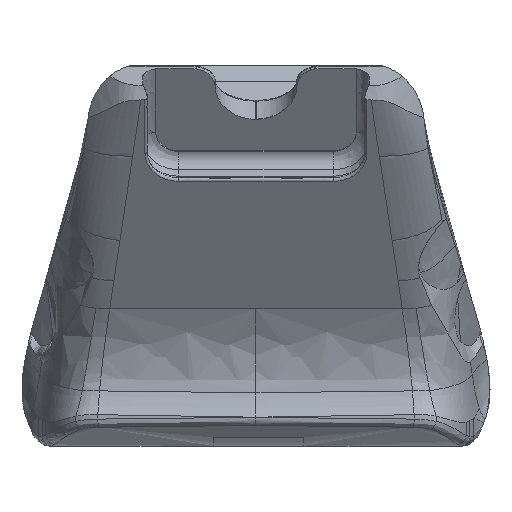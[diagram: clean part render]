
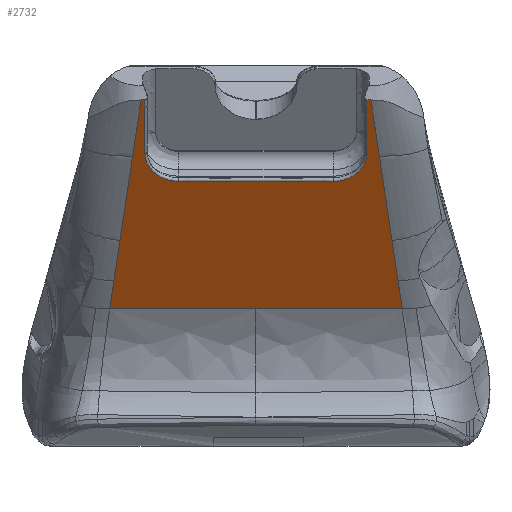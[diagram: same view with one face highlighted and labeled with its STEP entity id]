
A CAD part, top view. The second image highlights one B-rep face of the part: STEP entity #2732.
In plain terms, the highlighted planar face has unit normal (0, -0.574, 0.819).
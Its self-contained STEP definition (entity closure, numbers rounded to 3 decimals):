
#51=PLANE('',#2811);
#255=FACE_OUTER_BOUND('',#408,.T.);
#408=EDGE_LOOP('',(#2385,#2386,#2387,#2388,#2389,#2390,#2391,#2392,#2393,
#2394,#2395,#2396,#2397,#2398,#2399,#2400,#2401));
#454=LINE('',#8465,#538);
#464=LINE('',#20037,#548);
#467=LINE('',#20557,#551);
#468=LINE('',#21230,#552);
#473=LINE('',#21910,#557);
#475=LINE('',#22662,#559);
#476=LINE('',#23746,#560);
#477=LINE('',#24722,#561);
#478=LINE('',#25245,#562);
#480=LINE('',#25512,#564);
#538=VECTOR('',#2900,10.891);
#548=VECTOR('',#2928,10.);
#551=VECTOR('',#2945,7.582);
#552=VECTOR('',#2946,32.237);
#557=VECTOR('',#2951,10.891);
#559=VECTOR('',#2957,32.237);
#560=VECTOR('',#2968,10.);
#561=VECTOR('',#2969,10.);
#562=VECTOR('',#2970,10.);
#564=VECTOR('',#2974,7.582);
#837=B_SPLINE_CURVE_WITH_KNOTS('',3,(#20234,#20235,#20236,#20237),
 .UNSPECIFIED.,.F.,.F.,(4,4),(-1.799,-0.357),
 .UNSPECIFIED.);
#861=B_SPLINE_CURVE_WITH_KNOTS('',3,(#22722,#22723,#22724,#22725),
 .UNSPECIFIED.,.F.,.F.,(4,4),(-3.4,0.),.UNSPECIFIED.);
#866=B_SPLINE_CURVE_WITH_KNOTS('',3,(#25290,#25291,#25292,#25293,#25294,
#25295),.UNSPECIFIED.,.F.,.F.,(4,1,1,4),(-1.173,-0.838,
-0.503,0.),.UNSPECIFIED.);
#869=B_SPLINE_CURVE_WITH_KNOTS('',3,(#25664,#25665,#25666,#25667,#25668,
#25669),.UNSPECIFIED.,.F.,.F.,(4,2,4),(-0.62,-0.566,
-0.322),.UNSPECIFIED.);
#871=B_SPLINE_CURVE_WITH_KNOTS('',3,(#25723,#25724,#25725,#25726,#25727,
#25728),.UNSPECIFIED.,.F.,.F.,(4,1,1,4),(-1.173,-0.838,
-0.503,0.),.UNSPECIFIED.);
#887=B_SPLINE_CURVE_WITH_KNOTS('',3,(#26188,#26189,#26190,#26191,#26192,
#26193),.UNSPECIFIED.,.F.,.F.,(4,2,4),(1.153,1.162,
1.216),.UNSPECIFIED.);
#889=B_SPLINE_CURVE_WITH_KNOTS('',3,(#26217,#26218,#26219,#26220),
 .UNSPECIFIED.,.F.,.F.,(4,4),(-1.442,0.),
 .UNSPECIFIED.);
#1042=VERTEX_POINT('',#8447);
#1043=VERTEX_POINT('',#8464);
#1095=VERTEX_POINT('',#18899);
#1101=VERTEX_POINT('',#19998);
#1102=VERTEX_POINT('',#20036);
#1111=VERTEX_POINT('',#20206);
#1114=VERTEX_POINT('',#20232);
#1118=VERTEX_POINT('',#20540);
#1119=VERTEX_POINT('',#21158);
#1120=VERTEX_POINT('',#21229);
#1138=VERTEX_POINT('',#22719);
#1139=VERTEX_POINT('',#22721);
#1141=VERTEX_POINT('',#23707);
#1142=VERTEX_POINT('',#23745);
#1143=VERTEX_POINT('',#24711);
#1146=VERTEX_POINT('',#25721);
#1174=VERTEX_POINT('',#26187);
#1378=EDGE_CURVE('',#1043,#1042,#454,.T.);
#1478=EDGE_CURVE('',#1101,#1102,#464,.T.);
#1491=EDGE_CURVE('',#1114,#1111,#837,.T.);
#1499=EDGE_CURVE('',#1118,#1095,#467,.T.);
#1501=EDGE_CURVE('',#1119,#1120,#468,.T.);
#1518=EDGE_CURVE('',#1102,#1118,#473,.T.);
#1527=EDGE_CURVE('',#1119,#1095,#475,.T.);
#1532=EDGE_CURVE('',#1138,#1139,#861,.T.);
#1537=EDGE_CURVE('',#1142,#1141,#476,.T.);
#1540=EDGE_CURVE('',#1143,#1101,#477,.T.);
#1541=EDGE_CURVE('',#1141,#1043,#478,.T.);
#1543=EDGE_CURVE('',#1139,#1114,#866,.T.);
#1544=EDGE_CURVE('',#1042,#1120,#480,.T.);
#1547=EDGE_CURVE('',#1143,#1111,#869,.T.);
#1550=EDGE_CURVE('',#1146,#1138,#871,.T.);
#1592=EDGE_CURVE('',#1142,#1174,#887,.T.);
#1596=EDGE_CURVE('',#1174,#1146,#889,.T.);
#2385=ORIENTED_EDGE('',*,*,#1592,.F.);
#2386=ORIENTED_EDGE('',*,*,#1537,.T.);
#2387=ORIENTED_EDGE('',*,*,#1541,.T.);
#2388=ORIENTED_EDGE('',*,*,#1378,.T.);
#2389=ORIENTED_EDGE('',*,*,#1544,.T.);
#2390=ORIENTED_EDGE('',*,*,#1501,.F.);
#2391=ORIENTED_EDGE('',*,*,#1527,.T.);
#2392=ORIENTED_EDGE('',*,*,#1499,.F.);
#2393=ORIENTED_EDGE('',*,*,#1518,.F.);
#2394=ORIENTED_EDGE('',*,*,#1478,.F.);
#2395=ORIENTED_EDGE('',*,*,#1540,.F.);
#2396=ORIENTED_EDGE('',*,*,#1547,.T.);
#2397=ORIENTED_EDGE('',*,*,#1491,.F.);
#2398=ORIENTED_EDGE('',*,*,#1543,.F.);
#2399=ORIENTED_EDGE('',*,*,#1532,.F.);
#2400=ORIENTED_EDGE('',*,*,#1550,.F.);
#2401=ORIENTED_EDGE('',*,*,#1596,.F.);
#2732=ADVANCED_FACE('',(#255),#51,.T.);
#2811=AXIS2_PLACEMENT_3D('',#26216,#3026,#3027);
#2900=DIRECTION('',(-0.122,-0.813,-0.569));
#2928=DIRECTION('',(0.122,-0.813,-0.569));
#2945=DIRECTION('',(0.122,-0.813,-0.569));
#2946=DIRECTION('',(-1.,0.,0.));
#2951=DIRECTION('',(0.122,-0.813,-0.569));
#2957=DIRECTION('',(1.,0.,0.));
#2968=DIRECTION('',(-0.122,-0.813,-0.569));
#2969=DIRECTION('',(0.122,-0.813,-0.569));
#2970=DIRECTION('',(-0.122,-0.813,-0.569));
#2974=DIRECTION('',(-0.122,-0.813,-0.569));
#3026=DIRECTION('center_axis',(0.,-0.574,0.819));
#3027=DIRECTION('ref_axis',(0.,0.819,0.574));
#8447=CARTESIAN_POINT('',(-31.313,-27.694,33.24));
#8464=CARTESIAN_POINT('',(-29.986,-18.84,39.441));
#8465=CARTESIAN_POINT('',(-29.986,-18.84,39.441));
#18899=CARTESIAN_POINT('',(32.237,-33.859,28.924));
#19998=CARTESIAN_POINT('',(27.203,-0.273,52.441));
#20036=CARTESIAN_POINT('',(29.986,-18.84,39.441));
#20037=CARTESIAN_POINT('',(27.203,-0.273,52.441));
#20206=CARTESIAN_POINT('',(24.467,12.154,61.142));
#20232=CARTESIAN_POINT('',(24.467,0.341,52.871));
#20234=CARTESIAN_POINT('Ctrl Pts',(24.467,0.341,52.871));
#20235=CARTESIAN_POINT('Ctrl Pts',(24.467,4.279,55.628));
#20236=CARTESIAN_POINT('Ctrl Pts',(24.467,8.216,58.385));
#20237=CARTESIAN_POINT('Ctrl Pts',(24.467,12.154,61.142));
#20540=CARTESIAN_POINT('',(31.313,-27.694,33.24));
#20557=CARTESIAN_POINT('',(31.313,-27.694,33.24));
#21158=CARTESIAN_POINT('',(0.,-33.859,28.924));
#21229=CARTESIAN_POINT('',(-32.237,-33.859,28.924));
#21230=CARTESIAN_POINT('',(0.,-33.859,28.924));
#21910=CARTESIAN_POINT('',(29.986,-18.84,39.441));
#22662=CARTESIAN_POINT('',(0.,-33.859,28.924));
#22719=CARTESIAN_POINT('',(-17.,-5.776,48.588));
#22721=CARTESIAN_POINT('',(17.,-5.776,48.588));
#22722=CARTESIAN_POINT('Ctrl Pts',(-17.,-5.776,48.588));
#22723=CARTESIAN_POINT('Ctrl Pts',(-5.667,-5.776,
48.588));
#22724=CARTESIAN_POINT('Ctrl Pts',(5.667,-5.776,48.588));
#22725=CARTESIAN_POINT('Ctrl Pts',(17.,-5.776,48.588));
#23707=CARTESIAN_POINT('',(-27.203,-0.273,52.441));
#23745=CARTESIAN_POINT('',(-25.339,12.16,61.147));
#23746=CARTESIAN_POINT('',(-25.339,12.16,61.147));
#24711=CARTESIAN_POINT('',(25.339,12.16,61.147));
#24722=CARTESIAN_POINT('',(25.339,12.16,61.147));
#25245=CARTESIAN_POINT('',(-27.203,-0.273,52.441));
#25290=CARTESIAN_POINT('Ctrl Pts',(17.,-5.776,48.588));
#25291=CARTESIAN_POINT('Ctrl Pts',(18.117,-5.776,48.588));
#25292=CARTESIAN_POINT('Ctrl Pts',(20.347,-5.357,48.881));
#25293=CARTESIAN_POINT('Ctrl Pts',(23.488,-3.311,50.314));
#25294=CARTESIAN_POINT('Ctrl Pts',(24.467,-1.032,51.91));
#25295=CARTESIAN_POINT('Ctrl Pts',(24.467,0.341,52.871));
#25512=CARTESIAN_POINT('',(-31.313,-27.694,33.24));
#25664=CARTESIAN_POINT('Ctrl Pts',(25.339,12.16,61.147));
#25665=CARTESIAN_POINT('Ctrl Pts',(25.314,12.161,61.147));
#25666=CARTESIAN_POINT('Ctrl Pts',(25.289,12.161,61.148));
#25667=CARTESIAN_POINT('Ctrl Pts',(25.147,12.163,61.149));
#25668=CARTESIAN_POINT('Ctrl Pts',(25.036,12.161,61.148));
#25669=CARTESIAN_POINT('Ctrl Pts',(24.467,12.154,61.142));
#25721=CARTESIAN_POINT('',(-24.467,0.341,52.871));
#25723=CARTESIAN_POINT('Ctrl Pts',(-24.467,0.341,
52.871));
#25724=CARTESIAN_POINT('Ctrl Pts',(-24.467,-0.574,
52.23));
#25725=CARTESIAN_POINT('Ctrl Pts',(-23.956,-2.401,
50.951));
#25726=CARTESIAN_POINT('Ctrl Pts',(-21.458,-4.974,
49.15));
#25727=CARTESIAN_POINT('Ctrl Pts',(-18.676,-5.776,
48.588));
#25728=CARTESIAN_POINT('Ctrl Pts',(-17.,-5.776,48.588));
#26187=CARTESIAN_POINT('',(-24.467,12.154,61.142));
#26188=CARTESIAN_POINT('Ctrl Pts',(-25.339,12.16,61.147));
#26189=CARTESIAN_POINT('Ctrl Pts',(-25.319,12.161,61.147));
#26190=CARTESIAN_POINT('Ctrl Pts',(-25.298,12.161,61.148));
#26191=CARTESIAN_POINT('Ctrl Pts',(-25.158,12.163,61.149));
#26192=CARTESIAN_POINT('Ctrl Pts',(-25.044,12.161,61.148));
#26193=CARTESIAN_POINT('Ctrl Pts',(-24.467,12.154,61.142));
#26216=CARTESIAN_POINT('Origin',(0.,-33.859,28.924));
#26217=CARTESIAN_POINT('Ctrl Pts',(-24.467,12.154,61.142));
#26218=CARTESIAN_POINT('Ctrl Pts',(-24.467,8.216,58.385));
#26219=CARTESIAN_POINT('Ctrl Pts',(-24.467,4.279,55.628));
#26220=CARTESIAN_POINT('Ctrl Pts',(-24.467,0.341,
52.871));
